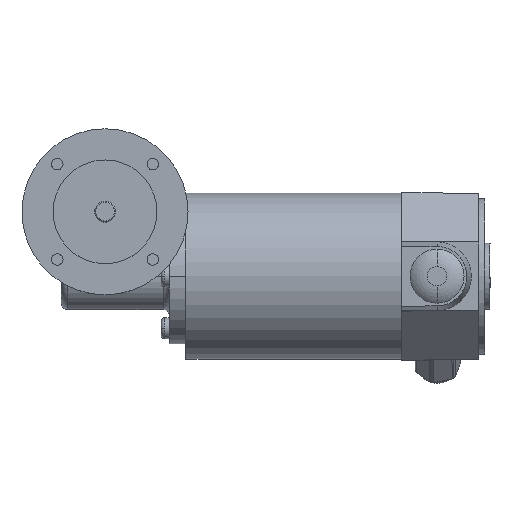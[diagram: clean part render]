
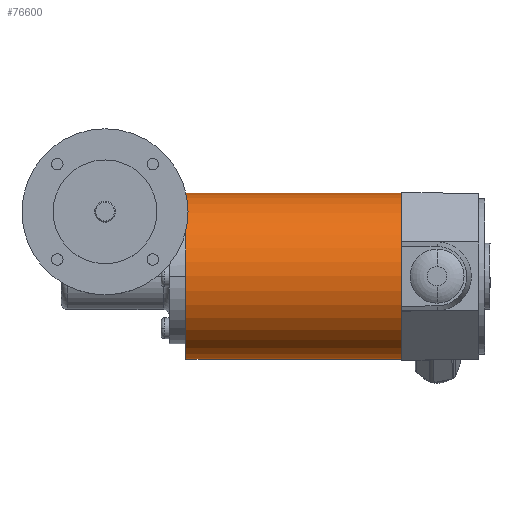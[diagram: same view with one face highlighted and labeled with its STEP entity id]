
A CAD part, top view. The second image highlights one B-rep face of the part: STEP entity #76600.
In plain terms, the highlighted cylindrical face has radius 40 mm (diameter 80 mm), a partial arc.
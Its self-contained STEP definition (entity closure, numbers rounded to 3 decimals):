
#9310=CARTESIAN_POINT('',(-51.325,455.,
-0.185));
#9320=DIRECTION('',(-0.026,0.,
1.));
#9330=DIRECTION('',(1.,0.,
0.026));
#9340=AXIS2_PLACEMENT_3D('',#9310,#9320,#9330);
#9350=CIRCLE('',#9340,40.);
#9360=CARTESIAN_POINT('',(-11.339,455.,
0.862));
#9370=VERTEX_POINT('',#9360);
#9380=CARTESIAN_POINT('',(-91.312,455.,
-1.232));
#9390=VERTEX_POINT('',#9380);
#9400=EDGE_CURVE('',#9370,#9390,#9350,.T.);
#30870=CARTESIAN_POINT('',(-48.603,455.,
-104.15));
#30880=DIRECTION('',(-0.026,0.,
1.));
#30890=DIRECTION('',(1.,0.,
0.026));
#30900=AXIS2_PLACEMENT_3D('',#30870,#30880,#30890);
#30910=CIRCLE('',#30900,40.);
#30920=CARTESIAN_POINT('',(-8.617,455.,
-103.102));
#30930=VERTEX_POINT('',#30920);
#30940=CARTESIAN_POINT('',(-88.589,455.,
-105.197));
#30950=VERTEX_POINT('',#30940);
#30960=EDGE_CURVE('',#30930,#30950,#30910,.T.);
#32480=CARTESIAN_POINT('',(-48.603,455.,
-104.15));
#32490=DIRECTION('',(-0.026,0.,
1.));
#32500=DIRECTION('',(1.,0.,
0.026));
#32510=AXIS2_PLACEMENT_3D('',#32480,#32490,#32500);
#32520=CYLINDRICAL_SURFACE('',#32510,40.);
#32530=CARTESIAN_POINT('',(-8.617,455.,
-103.102));
#32540=DIRECTION('',(-0.026,0.,
1.));
#32550=VECTOR('',#32540,1.);
#32560=LINE('',#32530,#32550);
#32570=EDGE_CURVE('',#30930,#9370,#32560,.T.);
#32600=CARTESIAN_POINT('',(-88.589,455.,
-105.197));
#32610=DIRECTION('',(-0.026,0.,
1.));
#32620=VECTOR('',#32610,1.);
#32630=LINE('',#32600,#32620);
#32640=EDGE_CURVE('',#30950,#9390,#32630,.T.);
#76540=ORIENTED_EDGE('',*,*,#9400,.F.);
#76550=ORIENTED_EDGE('',*,*,#32640,.T.);
#76560=ORIENTED_EDGE('',*,*,#30960,.T.);
#76570=ORIENTED_EDGE('',*,*,#32570,.F.);
#76580=EDGE_LOOP('',(#76570,#76560,#76550,#76540));
#76590=FACE_OUTER_BOUND('',#76580,.T.);
#76600=ADVANCED_FACE('',(#76590),#32520,.T.);
